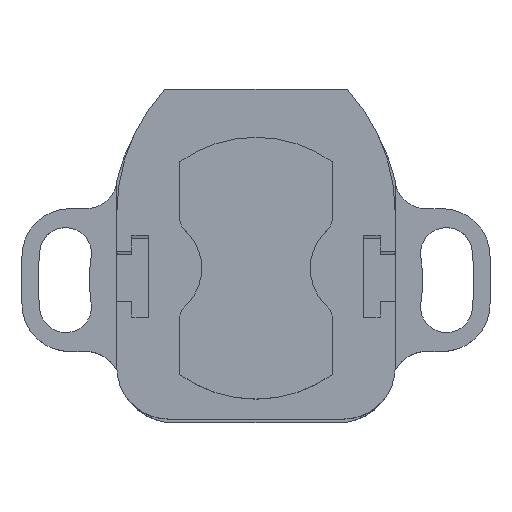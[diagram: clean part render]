
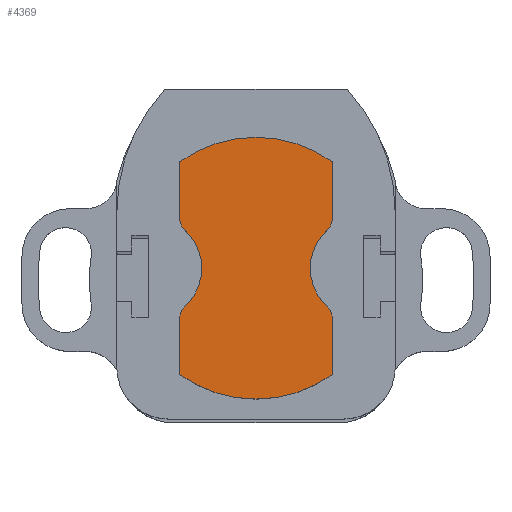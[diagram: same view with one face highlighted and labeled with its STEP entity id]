
A CAD part, top view. The second image highlights one B-rep face of the part: STEP entity #4369.
In plain terms, the highlighted planar face has unit normal (0, 0, 1).
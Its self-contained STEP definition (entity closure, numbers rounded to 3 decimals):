
#1511=CARTESIAN_POINT('',(-43.275,-109.334,252.686));
#1512=DIRECTION('',(0.,0.,1.));
#1513=DIRECTION('',(0.582,0.813,0.));
#1514=AXIS2_PLACEMENT_3D('',#1511,#1512,#1513);
#1519=DIRECTION('',(0.,1.,0.));
#1520=VECTOR('',#1519,7.209);
#1521=CARTESIAN_POINT('',(-33.675,-103.123,252.686));
#1522=LINE('',#1521,#1520);
#1526=CARTESIAN_POINT('',(-35.537,-103.123,252.686));
#1527=DIRECTION('',(0.,0.,1.));
#1528=DIRECTION('',(0.67,-0.743,0.));
#1529=AXIS2_PLACEMENT_3D('',#1526,#1527,#1528);
#1534=CARTESIAN_POINT('',(-29.938,-109.334,252.686));
#1535=DIRECTION('',(0.,0.,-1.));
#1536=DIRECTION('',(-0.67,-0.743,0.));
#1537=AXIS2_PLACEMENT_3D('',#1534,#1535,#1536);
#1542=CARTESIAN_POINT('',(-35.537,-115.545,252.686));
#1543=DIRECTION('',(0.,0.,1.));
#1544=DIRECTION('',(1.,0.,0.));
#1545=AXIS2_PLACEMENT_3D('',#1542,#1543,#1544);
#1550=DIRECTION('',(0.,1.,0.));
#1551=VECTOR('',#1550,7.209);
#1552=CARTESIAN_POINT('',(-33.675,-122.754,252.686));
#1553=LINE('',#1552,#1551);
#1557=CARTESIAN_POINT('',(-43.275,-109.334,252.686));
#1558=DIRECTION('',(0.,0.,1.));
#1559=DIRECTION('',(-0.582,-0.813,0.));
#1560=AXIS2_PLACEMENT_3D('',#1557,#1558,#1559);
#1565=DIRECTION('',(0.,-1.,0.));
#1566=VECTOR('',#1565,7.209);
#1567=CARTESIAN_POINT('',(-52.875,-115.545,252.686));
#1568=LINE('',#1567,#1566);
#1572=CARTESIAN_POINT('',(-51.013,-115.545,252.686));
#1573=DIRECTION('',(0.,0.,1.));
#1574=DIRECTION('',(-0.67,0.743,0.));
#1575=AXIS2_PLACEMENT_3D('',#1572,#1573,#1574);
#1580=CARTESIAN_POINT('',(-56.612,-109.334,252.686));
#1581=DIRECTION('',(0.,0.,-1.));
#1582=DIRECTION('',(0.67,0.743,0.));
#1583=AXIS2_PLACEMENT_3D('',#1580,#1581,#1582);
#1588=CARTESIAN_POINT('',(-51.013,-103.123,252.686));
#1589=DIRECTION('',(0.,0.,1.));
#1590=DIRECTION('',(-1.,0.,0.));
#1591=AXIS2_PLACEMENT_3D('',#1588,#1589,#1590);
#1596=DIRECTION('',(0.,-1.,0.));
#1597=VECTOR('',#1596,7.209);
#1598=CARTESIAN_POINT('',(-52.875,-95.914,252.686));
#1599=LINE('',#1598,#1597);
#2201=CARTESIAN_POINT('',(-33.675,-95.914,252.686));
#2202=CARTESIAN_POINT('',(-52.875,-95.914,252.686));
#2203=VERTEX_POINT('',#2201);
#2204=VERTEX_POINT('',#2202);
#2205=CARTESIAN_POINT('',(-52.875,-103.123,252.686));
#2206=VERTEX_POINT('',#2205);
#2207=CARTESIAN_POINT('',(-52.26,-104.506,252.686));
#2208=VERTEX_POINT('',#2207);
#2209=CARTESIAN_POINT('',(-52.26,-114.162,252.686));
#2210=VERTEX_POINT('',#2209);
#2211=CARTESIAN_POINT('',(-52.875,-115.545,252.686));
#2212=VERTEX_POINT('',#2211);
#2213=CARTESIAN_POINT('',(-52.875,-122.754,252.686));
#2214=VERTEX_POINT('',#2213);
#2215=CARTESIAN_POINT('',(-33.675,-122.754,252.686));
#2216=VERTEX_POINT('',#2215);
#2217=CARTESIAN_POINT('',(-33.675,-115.545,252.686));
#2218=VERTEX_POINT('',#2217);
#2219=CARTESIAN_POINT('',(-34.29,-114.162,252.686));
#2220=VERTEX_POINT('',#2219);
#2221=CARTESIAN_POINT('',(-34.29,-104.506,252.686));
#2222=VERTEX_POINT('',#2221);
#2223=CARTESIAN_POINT('',(-33.675,-103.123,252.686));
#2224=VERTEX_POINT('',#2223);
#4350=CARTESIAN_POINT('',(-43.275,0.,252.686));
#4351=DIRECTION('',(0.,0.,1.));
#4352=DIRECTION('',(1.,0.,0.));
#4353=AXIS2_PLACEMENT_3D('',#4350,#4351,#4352);
#4354=PLANE('',#4353);
#4355=ORIENTED_EDGE('',*,*,#4045,.F.);
#4356=ORIENTED_EDGE('',*,*,#4074,.F.);
#4357=ORIENTED_EDGE('',*,*,#4098,.F.);
#4358=ORIENTED_EDGE('',*,*,#4124,.F.);
#4359=ORIENTED_EDGE('',*,*,#4150,.F.);
#4360=ORIENTED_EDGE('',*,*,#4176,.F.);
#4361=ORIENTED_EDGE('',*,*,#4202,.F.);
#4362=ORIENTED_EDGE('',*,*,#4228,.F.);
#4363=ORIENTED_EDGE('',*,*,#4254,.F.);
#4364=ORIENTED_EDGE('',*,*,#4280,.F.);
#4365=ORIENTED_EDGE('',*,*,#4306,.F.);
#4366=ORIENTED_EDGE('',*,*,#4331,.F.);
#4367=EDGE_LOOP('',(#4355,#4356,#4357,#4358,#4359,#4360,#4361,#4362,#4363,#4364,
#4365,#4366));
#4368=FACE_OUTER_BOUND('',#4367,.F.);
#4369=ADVANCED_FACE('',(#4368),#4354,.T.);
#1515=CIRCLE('',#1514,16.5);
#1530=CIRCLE('',#1529,1.862);
#1538=CIRCLE('',#1537,6.5);
#1546=CIRCLE('',#1545,1.862);
#1561=CIRCLE('',#1560,16.5);
#1576=CIRCLE('',#1575,1.862);
#1584=CIRCLE('',#1583,6.5);
#1592=CIRCLE('',#1591,1.862);
#4045=EDGE_CURVE('',#2203,#2204,#1515,.T.);
#4074=EDGE_CURVE('',#2224,#2203,#1522,.T.);
#4098=EDGE_CURVE('',#2222,#2224,#1530,.T.);
#4124=EDGE_CURVE('',#2220,#2222,#1538,.T.);
#4150=EDGE_CURVE('',#2218,#2220,#1546,.T.);
#4176=EDGE_CURVE('',#2216,#2218,#1553,.T.);
#4202=EDGE_CURVE('',#2214,#2216,#1561,.T.);
#4228=EDGE_CURVE('',#2212,#2214,#1568,.T.);
#4254=EDGE_CURVE('',#2210,#2212,#1576,.T.);
#4280=EDGE_CURVE('',#2208,#2210,#1584,.T.);
#4306=EDGE_CURVE('',#2206,#2208,#1592,.T.);
#4331=EDGE_CURVE('',#2204,#2206,#1599,.T.);
